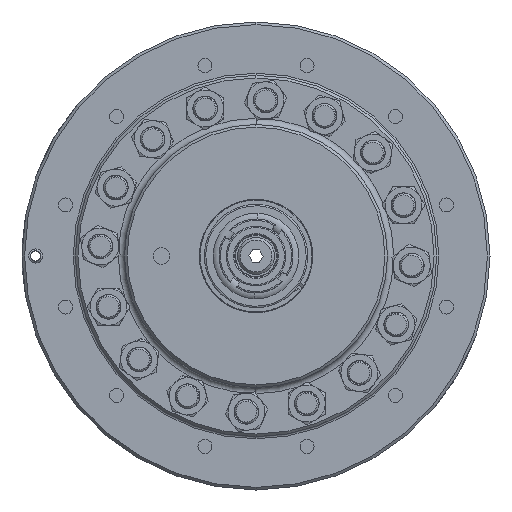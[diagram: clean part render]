
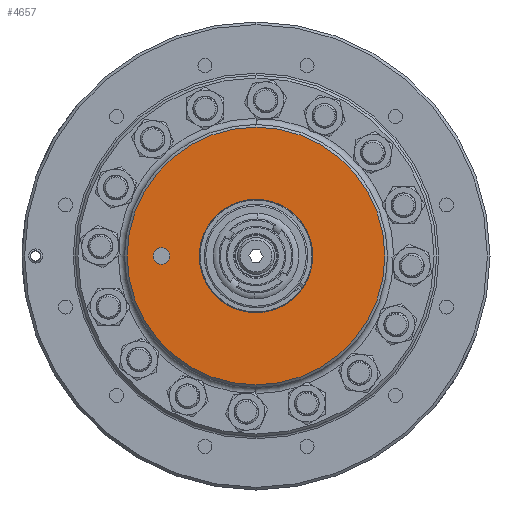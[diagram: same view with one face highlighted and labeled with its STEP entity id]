
A CAD part, left-side view. The second image highlights one B-rep face of the part: STEP entity #4657.
In plain terms, the highlighted planar face has unit normal (-1, 0, 0).
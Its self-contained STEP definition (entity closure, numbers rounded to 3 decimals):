
#2138 = EDGE_LOOP ( 'NONE', ( #31186, #28750 ) ) ;
#2472 = EDGE_LOOP ( 'NONE', ( #30333, #32696 ) ) ;
#4540 = FACE_BOUND ( 'NONE', #2472, .T. ) ;
#4657 = ADVANCED_FACE ( 'NONE', ( #11468, #4540, #22447 ), #7431, .F. ) ;
#5207 = DIRECTION ( 'NONE',  ( 0., 0., 1. ) ) ;
#6608 = VERTEX_POINT ( 'NONE', #44473 ) ;
#7431 = PLANE ( 'NONE',  #36477 ) ;
#7800 = DIRECTION ( 'NONE',  ( -1., 0., 0. ) ) ;
#7938 = DIRECTION ( 'NONE',  ( 0., 0., 1. ) ) ;
#8273 = EDGE_CURVE ( 'NONE', #10244, #39648, #44949, .T. ) ;
#8622 = DIRECTION ( 'NONE',  ( 0., 0., -1. ) ) ;
#9801 = AXIS2_PLACEMENT_3D ( 'NONE', #28398, #31693, #42747 ) ;
#10244 = VERTEX_POINT ( 'NONE', #25651 ) ;
#10571 = CIRCLE ( 'NONE', #35805, 20.759 ) ;
#10646 = EDGE_LOOP ( 'NONE', ( #31169, #45900 ) ) ;
#11468 = FACE_BOUND ( 'NONE', #2138, .T. ) ;
#14234 = DIRECTION ( 'NONE',  ( -1., 0., 0. ) ) ;
#15246 = CIRCLE ( 'NONE', #41923, 49.784 ) ;
#16412 = DIRECTION ( 'NONE',  ( -1., 0., 0. ) ) ;
#18050 = CARTESIAN_POINT ( 'NONE',  ( 0., 36.576, 0. ) ) ;
#18271 = AXIS2_PLACEMENT_3D ( 'NONE', #45331, #16412, #5207 ) ;
#18771 = CIRCLE ( 'NONE', #33208, 3.175 ) ;
#20792 = EDGE_CURVE ( 'NONE', #33497, #21985, #21634, .T. ) ;
#20857 = VERTEX_POINT ( 'NONE', #35943 ) ;
#21634 = CIRCLE ( 'NONE', #25417, 3.175 ) ;
#21985 = VERTEX_POINT ( 'NONE', #44657 ) ;
#22447 = FACE_OUTER_BOUND ( 'NONE', #10646, .T. ) ;
#24943 = DIRECTION ( 'NONE',  ( 0., 0., 1. ) ) ;
#25417 = AXIS2_PLACEMENT_3D ( 'NONE', #46970, #14234, #24943 ) ;
#25651 = CARTESIAN_POINT ( 'NONE',  ( 0., 0., -49.784 ) ) ;
#26537 = EDGE_CURVE ( 'NONE', #21985, #33497, #18771, .T. ) ;
#28084 = EDGE_CURVE ( 'NONE', #6608, #20857, #34905, .T. ) ;
#28398 = CARTESIAN_POINT ( 'NONE',  ( 0., 0., 0. ) ) ;
#28750 = ORIENTED_EDGE ( 'NONE', *, *, #26537, .F. ) ;
#29701 = DIRECTION ( 'NONE',  ( 0., 0., 1. ) ) ;
#30293 = CARTESIAN_POINT ( 'NONE',  ( 0., 0., 0. ) ) ;
#30333 = ORIENTED_EDGE ( 'NONE', *, *, #28084, .F. ) ;
#30754 = DIRECTION ( 'NONE',  ( 1., 0., 0. ) ) ;
#31169 = ORIENTED_EDGE ( 'NONE', *, *, #8273, .T. ) ;
#31186 = ORIENTED_EDGE ( 'NONE', *, *, #20792, .F. ) ;
#31693 = DIRECTION ( 'NONE',  ( -1., 0., 0. ) ) ;
#32171 = CARTESIAN_POINT ( 'NONE',  ( 0., 0., 0. ) ) ;
#32410 = DIRECTION ( 'NONE',  ( 0., 0., 1. ) ) ;
#32696 = ORIENTED_EDGE ( 'NONE', *, *, #42040, .F. ) ;
#33208 = AXIS2_PLACEMENT_3D ( 'NONE', #18050, #7800, #29701 ) ;
#33497 = VERTEX_POINT ( 'NONE', #34129 ) ;
#34129 = CARTESIAN_POINT ( 'NONE',  ( 0., 36.576, 3.175 ) ) ;
#34315 = CARTESIAN_POINT ( 'NONE',  ( 0., 49.784, 0. ) ) ;
#34905 = CIRCLE ( 'NONE', #9801, 20.759 ) ;
#35805 = AXIS2_PLACEMENT_3D ( 'NONE', #30293, #44906, #7938 ) ;
#35943 = CARTESIAN_POINT ( 'NONE',  ( 0., 0., -20.759 ) ) ;
#36246 = DIRECTION ( 'NONE',  ( -1., 0., 0. ) ) ;
#36477 = AXIS2_PLACEMENT_3D ( 'NONE', #34315, #30754, #8622 ) ;
#37534 = CARTESIAN_POINT ( 'NONE',  ( 0., 0., 49.784 ) ) ;
#39648 = VERTEX_POINT ( 'NONE', #37534 ) ;
#41923 = AXIS2_PLACEMENT_3D ( 'NONE', #32171, #36246, #32410 ) ;
#42040 = EDGE_CURVE ( 'NONE', #20857, #6608, #10571, .T. ) ;
#42381 = EDGE_CURVE ( 'NONE', #39648, #10244, #15246, .T. ) ;
#42747 = DIRECTION ( 'NONE',  ( 0., 0., 1. ) ) ;
#44473 = CARTESIAN_POINT ( 'NONE',  ( 0., 0., 20.759 ) ) ;
#44657 = CARTESIAN_POINT ( 'NONE',  ( 0., 36.576, -3.175 ) ) ;
#44906 = DIRECTION ( 'NONE',  ( -1., 0., 0. ) ) ;
#44949 = CIRCLE ( 'NONE', #18271, 49.784 ) ;
#45331 = CARTESIAN_POINT ( 'NONE',  ( 0., 0., 0. ) ) ;
#45900 = ORIENTED_EDGE ( 'NONE', *, *, #42381, .T. ) ;
#46970 = CARTESIAN_POINT ( 'NONE',  ( 0., 36.576, 0. ) ) ;
